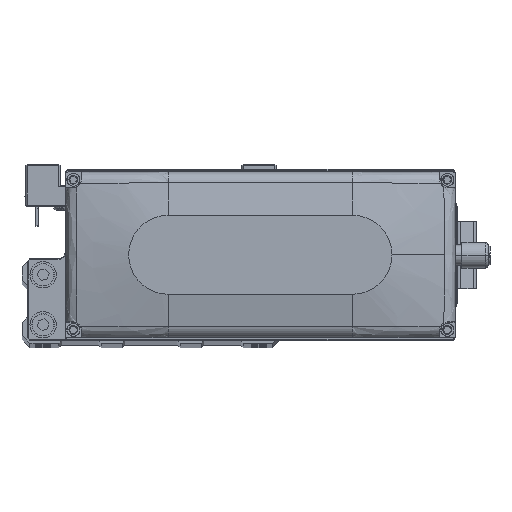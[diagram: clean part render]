
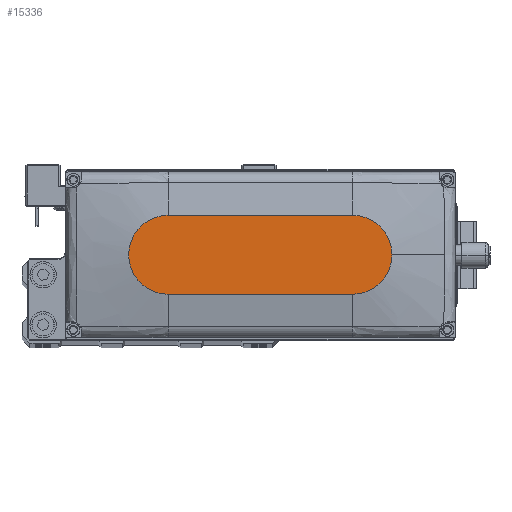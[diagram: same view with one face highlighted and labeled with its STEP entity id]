
A CAD part, top view. The second image highlights one B-rep face of the part: STEP entity #15336.
In plain terms, the highlighted planar face has unit normal (0, 0, 1).
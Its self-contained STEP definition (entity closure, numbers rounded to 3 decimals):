
#321 = CARTESIAN_POINT ( 'NONE',  ( -35., -15., 35. ) ) ;
#3015 = VERTEX_POINT ( 'NONE', #24919 ) ;
#4699 = CARTESIAN_POINT ( 'NONE',  ( -35., 15., 35. ) ) ;
#5027 = DIRECTION ( 'NONE',  ( 0., 0., 1. ) ) ;
#6229 = DIRECTION ( 'NONE',  ( 0., 0., 1. ) ) ;
#6474 = CARTESIAN_POINT ( 'NONE',  ( -35., 0., 35. ) ) ;
#6697 = CARTESIAN_POINT ( 'NONE',  ( 35., 0., 35. ) ) ;
#7970 = VERTEX_POINT ( 'NONE', #33350 ) ;
#8773 = VERTEX_POINT ( 'NONE', #15694 ) ;
#8973 = ORIENTED_EDGE ( 'NONE', *, *, #22558, .T. ) ;
#9516 = FACE_OUTER_BOUND ( 'NONE', #39041, .T. ) ;
#10564 = DIRECTION ( 'NONE',  ( -1., 0., 0. ) ) ;
#12322 = DIRECTION ( 'NONE',  ( 1., 0., 0. ) ) ;
#12349 = VECTOR ( 'NONE', #12322, 1000. ) ;
#12613 = AXIS2_PLACEMENT_3D ( 'NONE', #36346, #6229, #19647 ) ;
#15336 = ADVANCED_FACE ( 'NONE', ( #9516 ), #22936, .T. ) ;
#15694 = CARTESIAN_POINT ( 'NONE',  ( 35., -15., 35. ) ) ;
#16128 = CIRCLE ( 'NONE', #40656, 15. ) ;
#16703 = ORIENTED_EDGE ( 'NONE', *, *, #17710, .T. ) ;
#17072 = AXIS2_PLACEMENT_3D ( 'NONE', #6697, #20108, #33513 ) ;
#17625 = AXIS2_PLACEMENT_3D ( 'NONE', #35127, #5027, #18435 ) ;
#17710 = EDGE_CURVE ( 'NONE', #41688, #36078, #16128, .T. ) ;
#18435 = DIRECTION ( 'NONE',  ( 1., 0., 0. ) ) ;
#19647 = DIRECTION ( 'NONE',  ( 1., 0., 0. ) ) ;
#19884 = DIRECTION ( 'NONE',  ( 0., 0., 1. ) ) ;
#20108 = DIRECTION ( 'NONE',  ( 0., 0., 1. ) ) ;
#20258 = ORIENTED_EDGE ( 'NONE', *, *, #26614, .T. ) ;
#22558 = EDGE_CURVE ( 'NONE', #8773, #3015, #36563, .T. ) ;
#22936 = PLANE ( 'NONE',  #12613 ) ;
#24919 = CARTESIAN_POINT ( 'NONE',  ( 50., 0., 35. ) ) ;
#25852 = VECTOR ( 'NONE', #10564, 1000. ) ;
#26318 = ORIENTED_EDGE ( 'NONE', *, *, #27674, .T. ) ;
#26614 = EDGE_CURVE ( 'NONE', #3015, #7970, #35989, .T. ) ;
#27273 = LINE ( 'NONE', #40655, #25852 ) ;
#27674 = EDGE_CURVE ( 'NONE', #36078, #8773, #29065, .T. ) ;
#29065 = LINE ( 'NONE', #42431, #12349 ) ;
#32242 = ORIENTED_EDGE ( 'NONE', *, *, #32808, .T. ) ;
#32808 = EDGE_CURVE ( 'NONE', #7970, #41688, #27273, .T. ) ;
#33294 = DIRECTION ( 'NONE',  ( 1., 0., 0. ) ) ;
#33350 = CARTESIAN_POINT ( 'NONE',  ( 35., 15., 35. ) ) ;
#33513 = DIRECTION ( 'NONE',  ( 1., 0., 0. ) ) ;
#35127 = CARTESIAN_POINT ( 'NONE',  ( 35., 0., 35. ) ) ;
#35989 = CIRCLE ( 'NONE', #17072, 15. ) ;
#36078 = VERTEX_POINT ( 'NONE', #321 ) ;
#36346 = CARTESIAN_POINT ( 'NONE',  ( 0., 0., 35. ) ) ;
#36563 = CIRCLE ( 'NONE', #17625, 15. ) ;
#39041 = EDGE_LOOP ( 'NONE', ( #32242, #16703, #26318, #8973, #20258 ) ) ;
#40655 = CARTESIAN_POINT ( 'NONE',  ( -35., 15., 35. ) ) ;
#40656 = AXIS2_PLACEMENT_3D ( 'NONE', #6474, #19884, #33294 ) ;
#41688 = VERTEX_POINT ( 'NONE', #4699 ) ;
#42431 = CARTESIAN_POINT ( 'NONE',  ( -35., -15., 35. ) ) ;
